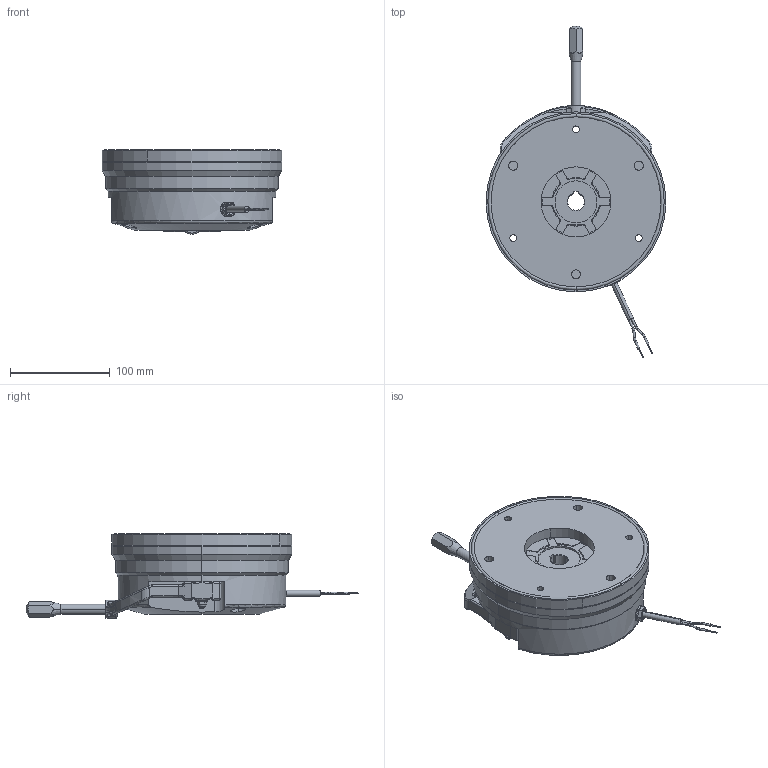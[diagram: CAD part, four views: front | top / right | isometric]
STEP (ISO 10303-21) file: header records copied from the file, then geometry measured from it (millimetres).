
FILE_DESCRIPTION (( 'STEP AP214' ), '1' );
FILE_NAME ('dr_bk_0628-hftw_mu.STEP', '2021-11-26T06:55:32', ( '' ), ( '' ), 'SwSTEP 2.0', 'SolidWorks 2019', '' );
FILE_SCHEMA (( 'AUTOMOTIVE_DESIGN' ));
Length unit declared in the file: millimetre
Products named in the file (11): dr_bk_0628-hftw_mu; 10069348_000_A 30 x 47 x 7; 10068433_000; 10068431_000; 10068432_000; 10068632_000; 10068430_000; 10069341_000; 10069334_000; 10069326_000; 10068632_000_Eingebaut Abstand 2,4mm
Assembly tree (12 placements, depth 2):
  dr_bk_0628-hftw_mu
    10069334_000
    10068431_000
    10068430_000  x3
    10068632_000_Eingebaut Abstand 2,4mm
    10068433_000
    10068432_000
    10069348_000_A 30 x 47 x 7
    10069326_000
    10069341_000
    10068632_000
Bounding box: 180 x 332.04 x 84.65 mm (x, y, z)
Volume: 1515397.3 mm3; surface area: 294715.3 mm2
Topology: 29 solids, 29 shells, 1049 faces, 2508 edges, 1497 vertices
Faces by surface type: cylinder 415, plane 279, bspline 150, cone 112, torus 75, sphere 18
Entity records: 52620 total; most frequent: CARTESIAN_POINT 20800, ORIENTED_EDGE 4744, DIRECTION 4657, EDGE_CURVE 2372, AXIS2_PLACEMENT_3D 1893, VERTEX_POINT 1445, EDGE_LOOP 1117, ADVANCED_FACE 1015
